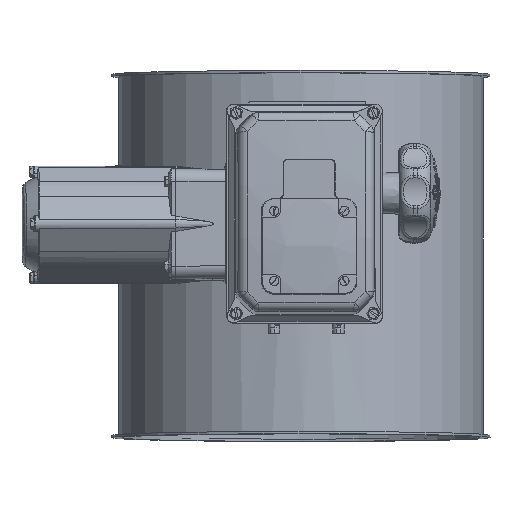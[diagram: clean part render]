
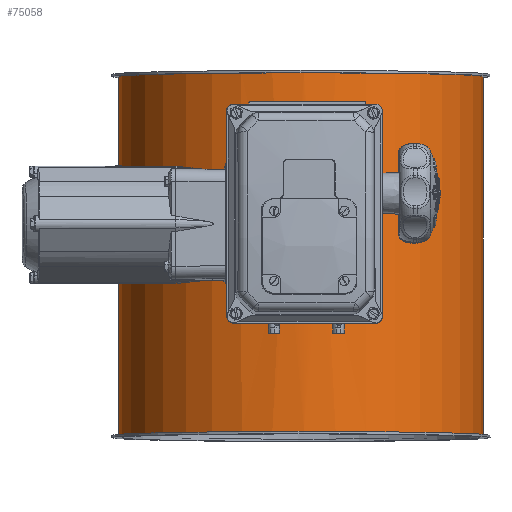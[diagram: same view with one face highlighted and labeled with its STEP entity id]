
A CAD part, left-side view. The second image highlights one B-rep face of the part: STEP entity #75058.
In plain terms, the highlighted cylindrical face has radius 158 mm (diameter 316 mm), a full revolution.
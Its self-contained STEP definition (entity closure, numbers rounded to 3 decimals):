
#74722=CARTESIAN_POINT('',(-156.729,20.0,157.5));
#74723=VERTEX_POINT('',#74722);
#74724=CARTESIAN_POINT('',(-156.729,20.0,157.5));
#74725=CARTESIAN_POINT('',(-156.729,20.0,158.757));
#74726=CARTESIAN_POINT('',(-156.745,19.88,160.057));
#74727=CARTESIAN_POINT('',(-156.808,19.373,162.641));
#74728=CARTESIAN_POINT('',(-156.856,18.987,163.926));
#74729=CARTESIAN_POINT('',(-156.976,17.966,166.389));
#74730=CARTESIAN_POINT('',(-157.048,17.33,167.57));
#74731=CARTESIAN_POINT('',(-157.204,15.862,169.753));
#74732=CARTESIAN_POINT('',(-157.286,15.029,170.755));
#74733=CARTESIAN_POINT('',(-157.446,13.255,172.529));
#74734=CARTESIAN_POINT('',(-157.528,12.253,173.362));
#74735=CARTESIAN_POINT('',(-157.683,10.07,174.83));
#74736=CARTESIAN_POINT('',(-157.755,8.889,175.466));
#74737=CARTESIAN_POINT('',(-157.874,6.426,176.487));
#74738=CARTESIAN_POINT('',(-157.922,5.141,176.873));
#74739=CARTESIAN_POINT('',(-157.985,2.557,177.38));
#74740=CARTESIAN_POINT('',(-158.0,1.257,177.5));
#74741=CARTESIAN_POINT('',(-158.0,-1.257,177.5));
#74742=CARTESIAN_POINT('',(-157.985,-2.557,177.38));
#74743=CARTESIAN_POINT('',(-157.922,-5.141,176.873));
#74744=CARTESIAN_POINT('',(-157.874,-6.426,176.487));
#74745=CARTESIAN_POINT('',(-157.755,-8.889,175.466));
#74746=CARTESIAN_POINT('',(-157.683,-10.07,174.83));
#74747=CARTESIAN_POINT('',(-157.528,-12.253,173.362));
#74748=CARTESIAN_POINT('',(-157.446,-13.255,172.529));
#74749=CARTESIAN_POINT('',(-157.286,-15.029,170.755));
#74750=CARTESIAN_POINT('',(-157.204,-15.862,169.753));
#74751=CARTESIAN_POINT('',(-157.048,-17.33,167.57));
#74752=CARTESIAN_POINT('',(-156.976,-17.966,166.389));
#74753=CARTESIAN_POINT('',(-156.856,-18.987,163.926));
#74754=CARTESIAN_POINT('',(-156.808,-19.373,162.641));
#74755=CARTESIAN_POINT('',(-156.745,-19.88,160.057));
#74756=CARTESIAN_POINT('',(-156.729,-20.0,158.757));
#74757=CARTESIAN_POINT('',(-156.729,-20.0,156.243));
#74758=CARTESIAN_POINT('',(-156.745,-19.88,154.943));
#74759=CARTESIAN_POINT('',(-156.808,-19.373,152.359));
#74760=CARTESIAN_POINT('',(-156.856,-18.987,151.074));
#74761=CARTESIAN_POINT('',(-156.976,-17.966,148.611));
#74762=CARTESIAN_POINT('',(-157.048,-17.33,147.43));
#74763=CARTESIAN_POINT('',(-157.204,-15.862,145.247));
#74764=CARTESIAN_POINT('',(-157.286,-15.029,144.245));
#74765=CARTESIAN_POINT('',(-157.446,-13.255,142.471));
#74766=CARTESIAN_POINT('',(-157.528,-12.253,141.638));
#74767=CARTESIAN_POINT('',(-157.683,-10.07,140.17));
#74768=CARTESIAN_POINT('',(-157.755,-8.889,139.534));
#74769=CARTESIAN_POINT('',(-157.874,-6.426,138.513));
#74770=CARTESIAN_POINT('',(-157.922,-5.141,138.127));
#74771=CARTESIAN_POINT('',(-157.985,-2.557,137.62));
#74772=CARTESIAN_POINT('',(-158.0,-1.257,137.5));
#74773=CARTESIAN_POINT('',(-158.0,1.257,137.5));
#74774=CARTESIAN_POINT('',(-157.985,2.557,137.62));
#74775=CARTESIAN_POINT('',(-157.922,5.141,138.127));
#74776=CARTESIAN_POINT('',(-157.874,6.426,138.513));
#74777=CARTESIAN_POINT('',(-157.755,8.889,139.534));
#74778=CARTESIAN_POINT('',(-157.683,10.07,140.17));
#74779=CARTESIAN_POINT('',(-157.528,12.253,141.638));
#74780=CARTESIAN_POINT('',(-157.446,13.255,142.471));
#74781=CARTESIAN_POINT('',(-157.286,15.029,144.245));
#74782=CARTESIAN_POINT('',(-157.204,15.862,145.247));
#74783=CARTESIAN_POINT('',(-157.048,17.33,147.43));
#74784=CARTESIAN_POINT('',(-156.976,17.966,148.611));
#74785=CARTESIAN_POINT('',(-156.856,18.987,151.074));
#74786=CARTESIAN_POINT('',(-156.808,19.373,152.359));
#74787=CARTESIAN_POINT('',(-156.745,19.88,154.943));
#74788=CARTESIAN_POINT('',(-156.729,20.0,156.243));
#74789=CARTESIAN_POINT('',(-156.729,20.0,157.5));
#74790=B_SPLINE_CURVE_WITH_KNOTS('',3,(#74724,#74725,#74726,#74727,#74728,#74729,#74730,#74731,#74732,#74733,#74734,#74735,#74736,#74737,#74738,#74739,#74740,#74741,#74742,#74743,#74744,#74745,#74746,#74747,#74748,#74749,#74750,#74751,#74752,#74753,#74754,#74755,#74756,#74757,#74758,#74759,#74760,#74761,#74762,#74763,#74764,#74765,#74766,#74767,#74768,#74769,#74770,#74771,#74772,#74773,#74774,#74775,#74776,#74777,#74778,#74779,#74780,#74781,#74782,#74783,#74784,#74785,#74786,#74787,#74788,#74789),.UNSPECIFIED.,.T.,.U.,(4,2,2,2,2,2,2,2,2,2,2,2,2,2,2,2,2,2,2,2,2,2,2,2,2,2,2,2,2,2,2,2,4),(0.0,0.377,0.754,1.131,1.508,1.886,2.263,2.64,3.017,3.394,3.771,4.148,4.525,4.903,5.28,5.657,6.034,6.411,6.788,7.165,7.542,7.92,8.297,8.674,9.051,9.428,9.805,10.182,10.559,10.937,11.314,11.691,12.068),.UNSPECIFIED.);
#74791=EDGE_CURVE('',#74723,#74723,#74790,.T.);
#74986=CARTESIAN_POINT('',(156.858,18.96,157.5));
#74987=VERTEX_POINT('',#74986);
#74997=CARTESIAN_POINT('',(156.858,18.961,157.5));
#74998=CARTESIAN_POINT('',(156.858,18.961,157.5));
#74999=CARTESIAN_POINT('',(156.858,18.961,157.501));
#75000=CARTESIAN_POINT('',(156.858,18.961,157.501));
#75001=CARTESIAN_POINT('',(156.858,18.96,159.678));
#75002=CARTESIAN_POINT('',(156.918,18.479,162.589));
#75003=CARTESIAN_POINT('',(157.16,16.324,167.97));
#75004=CARTESIAN_POINT('',(157.574,12.247,173.251));
#75005=CARTESIAN_POINT('',(158.016,4.404,177.149));
#75006=CARTESIAN_POINT('',(158.021,-5.323,177.178));
#75007=CARTESIAN_POINT('',(157.499,-13.023,172.613));
#75008=CARTESIAN_POINT('',(157.054,-17.322,166.109));
#75009=CARTESIAN_POINT('',(156.776,-19.61,158.594));
#75010=CARTESIAN_POINT('',(156.955,-18.282,149.531));
#75011=CARTESIAN_POINT('',(157.577,-12.233,141.747));
#75012=CARTESIAN_POINT('',(158.016,-4.383,137.841));
#75013=CARTESIAN_POINT('',(158.019,4.367,137.84));
#75014=CARTESIAN_POINT('',(157.576,12.223,141.729));
#75015=CARTESIAN_POINT('',(157.116,16.755,147.581));
#75016=CARTESIAN_POINT('',(156.898,18.637,153.109));
#75017=CARTESIAN_POINT('',(156.858,18.961,156.049));
#75018=CARTESIAN_POINT('',(156.858,18.961,157.5));
#75019=B_SPLINE_CURVE_WITH_KNOTS('',3,(#74997,#74998,#74999,#75000,#75001,#75002,#75003,#75004,#75005,#75006,#75007,#75008,#75009,#75010,#75011,#75012,#75013,#75014,#75015,#75016,#75017,#75018),.UNSPECIFIED.,.T.,.U.,(4,3,1,1,1,1,1,1,1,1,1,1,1,1,1,1,1,4),(-9.046,-9.046,-8.562,-8.4,-7.754,-7.108,-6.462,-5.6,-5.169,-4.739,-3.877,-3.231,-2.585,-1.938,-1.292,-0.646,-0.323,0.),.UNSPECIFIED.);
#75020=EDGE_CURVE('',#74987,#74987,#75019,.T.);
#75025=CARTESIAN_POINT('',(0.0,0.0,0.0));
#75026=DIRECTION('',(0.0,0.0,1.0));
#75027=DIRECTION('',(-1.0,0.0,0.0));
#75028=AXIS2_PLACEMENT_3D('',#75025,#75026,#75027);
#75029=CYLINDRICAL_SURFACE('',#75028,158.0);
#75030=CARTESIAN_POINT('',(158.0,0.,313.0));
#75031=VERTEX_POINT('',#75030);
#75032=CARTESIAN_POINT('',(0.0,0.0,313.0));
#75033=DIRECTION('',(0.0,0.0,-1.0));
#75034=DIRECTION('',(-1.0,0.0,0.0));
#75035=AXIS2_PLACEMENT_3D('',#75032,#75033,#75034);
#75036=CIRCLE('',#75035,158.0);
#75037=EDGE_CURVE('',#75031,#75031,#75036,.T.);
#75038=ORIENTED_EDGE('',*,*,#75037,.T.);
#75039=EDGE_LOOP('',(#75038));
#75040=FACE_OUTER_BOUND('',#75039,.T.);
#75041=ORIENTED_EDGE('',*,*,#74791,.T.);
#75042=EDGE_LOOP('',(#75041));
#75043=FACE_BOUND('',#75042,.T.);
#75044=CARTESIAN_POINT('',(-158.0,0.,2.0));
#75045=VERTEX_POINT('',#75044);
#75046=CARTESIAN_POINT('',(0.0,0.0,2.0));
#75047=DIRECTION('',(0.0,0.0,1.0));
#75048=DIRECTION('',(-1.0,0.0,0.0));
#75049=AXIS2_PLACEMENT_3D('',#75046,#75047,#75048);
#75050=CIRCLE('',#75049,158.0);
#75051=EDGE_CURVE('',#75045,#75045,#75050,.T.);
#75052=ORIENTED_EDGE('',*,*,#75051,.T.);
#75053=EDGE_LOOP('',(#75052));
#75054=FACE_BOUND('',#75053,.T.);
#75055=ORIENTED_EDGE('',*,*,#75020,.F.);
#75056=EDGE_LOOP('',(#75055));
#75057=FACE_BOUND('',#75056,.T.);
#75058=ADVANCED_FACE('',(#75040,#75043,#75054,#75057),#75029,.T.);
